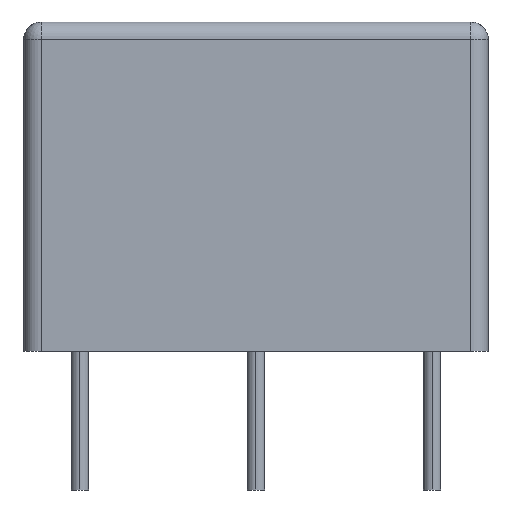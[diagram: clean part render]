
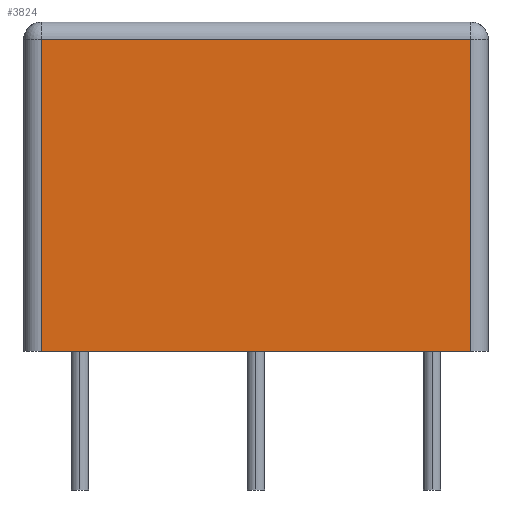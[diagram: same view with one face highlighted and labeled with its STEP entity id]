
A CAD part, left-side view. The second image highlights one B-rep face of the part: STEP entity #3824.
In plain terms, the highlighted planar face has unit normal (-1, 0, 0).
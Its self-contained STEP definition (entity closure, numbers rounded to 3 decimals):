
#54=DIRECTION('',(0.,-1.,0.));
#55=VECTOR('',#54,24.8);
#56=CARTESIAN_POINT('',(-26.1,12.4,0.));
#57=LINE('',#56,#55);
#919=DIRECTION('',(0.,0.,1.));
#920=VECTOR('',#919,18.);
#921=CARTESIAN_POINT('',(-26.1,-12.4,0.));
#922=LINE('',#921,#920);
#933=DIRECTION('',(0.,-1.,0.));
#934=VECTOR('',#933,24.8);
#935=CARTESIAN_POINT('',(-26.1,12.4,18.));
#936=LINE('',#935,#934);
#937=DIRECTION('',(0.,0.,1.));
#938=VECTOR('',#937,18.);
#939=CARTESIAN_POINT('',(-26.1,12.4,0.));
#940=LINE('',#939,#938);
#2398=CARTESIAN_POINT('',(-26.1,12.4,0.));
#2400=VERTEX_POINT('',#2398);
#2401=CARTESIAN_POINT('',(-26.1,-12.4,0.));
#2402=VERTEX_POINT('',#2401);
#2429=CARTESIAN_POINT('',(-26.1,12.4,18.));
#2430=VERTEX_POINT('',#2429);
#2433=CARTESIAN_POINT('',(-26.1,-12.4,18.));
#2434=VERTEX_POINT('',#2433);
#3813=CARTESIAN_POINT('',(-26.1,12.4,0.));
#3814=DIRECTION('',(-1.,0.,0.));
#3815=DIRECTION('',(0.,-1.,0.));
#3816=AXIS2_PLACEMENT_3D('',#3813,#3814,#3815);
#3817=PLANE('',#3816);
#3818=ORIENTED_EDGE('',*,*,#3807,.T.);
#3819=ORIENTED_EDGE('',*,*,#3783,.F.);
#3820=ORIENTED_EDGE('',*,*,#3168,.F.);
#3821=ORIENTED_EDGE('',*,*,#3216,.T.);
#3822=EDGE_LOOP('',(#3818,#3819,#3820,#3821));
#3823=FACE_OUTER_BOUND('',#3822,.F.);
#3168=EDGE_CURVE('',#2400,#2402,#57,.T.);
#3216=EDGE_CURVE('',#2400,#2430,#940,.T.);
#3783=EDGE_CURVE('',#2402,#2434,#922,.T.);
#3807=EDGE_CURVE('',#2430,#2434,#936,.T.);
#3824=ADVANCED_FACE('',(#3823),#3817,.T.);
